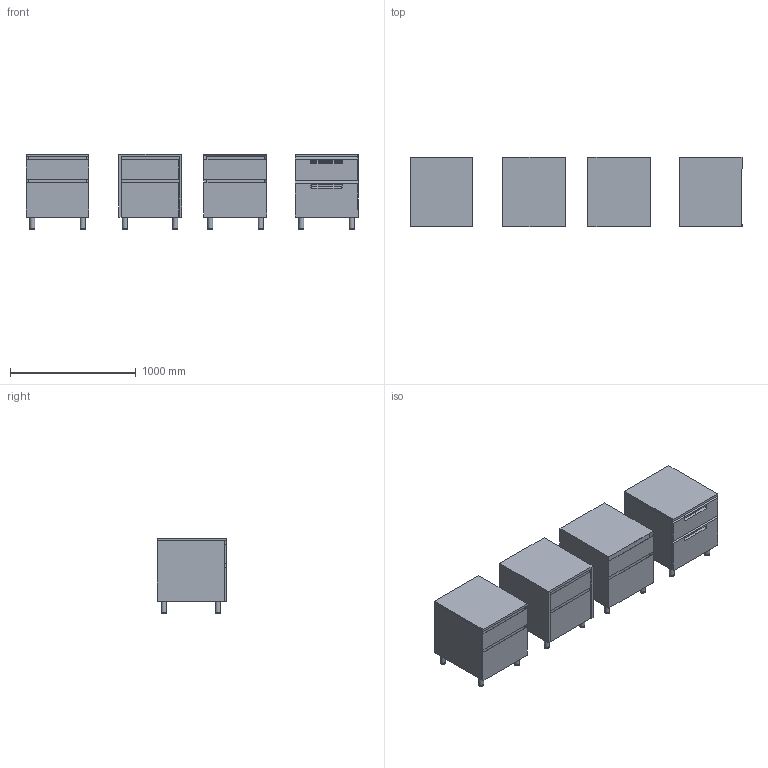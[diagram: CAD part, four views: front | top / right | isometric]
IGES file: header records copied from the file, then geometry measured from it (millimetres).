
Global section: file name: \\Archi-NAS\Comune\X GIOVANNI\MOBILI\COIFFEUSE\COIFFEUSE_cabinets_1.igs; native system: Rhinoceros ( Jan 17 2018 ); preprocessor: Trout Lake IGES 012 Jan 17 2018; date: 230608.091010; units: millimetre
Bounding box: 2639.92 x 550 x 600 mm (x, y, z)
Surface area: 19113550.7 mm2 (no closed solid volume)
Topology: 0 solids, 0 shells, 534 faces, 5376 edges, 5312 vertices
Faces by surface type: bspline 534
